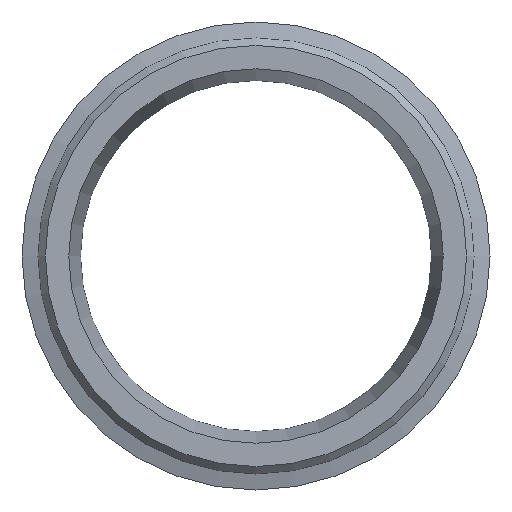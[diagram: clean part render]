
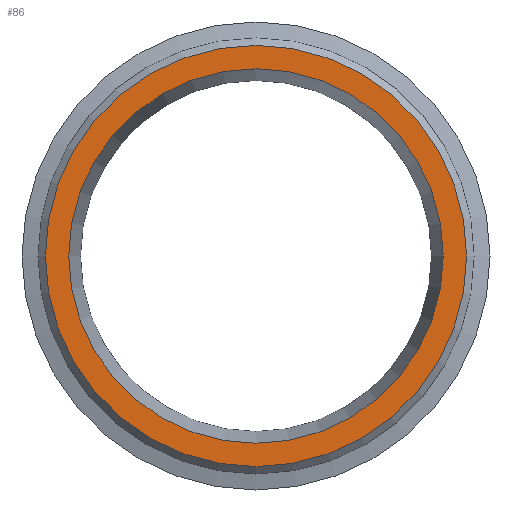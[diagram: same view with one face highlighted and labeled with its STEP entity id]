
A CAD part, left-side view. The second image highlights one B-rep face of the part: STEP entity #86.
In plain terms, the highlighted planar face has unit normal (-1, 0, 0).
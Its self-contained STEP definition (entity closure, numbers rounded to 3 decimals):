
#86=ADVANCED_FACE('',(#121,#122),#123,.F.);
#121=FACE_BOUND('',#157,.T.);
#122=FACE_OUTER_BOUND('',#158,.T.);
#123=PLANE('',#159);
#157=EDGE_LOOP('',(#215));
#158=EDGE_LOOP('',(#216));
#159=AXIS2_PLACEMENT_3D('',#217,#218,#219);
#215=ORIENTED_EDGE('',*,*,#231,.F.);
#216=ORIENTED_EDGE('',*,*,#220,.T.);
#217=CARTESIAN_POINT('',(0.0,18.0,0.0));
#218=DIRECTION('',(1.0,0.0,0.0));
#219=DIRECTION('',(0.0,0.0,-1.0));
#220=EDGE_CURVE('',#232,#232,#233,.T.);
#231=EDGE_CURVE('',#254,#254,#255,.T.);
#232=VERTEX_POINT('',#256);
#233=CIRCLE('',#257,18.0);
#254=VERTEX_POINT('',#278);
#255=CIRCLE('',#279,16.005);
#256=CARTESIAN_POINT('',(0.0,0.0,18.0));
#257=AXIS2_PLACEMENT_3D('',#280,#281,#282);
#278=CARTESIAN_POINT('',(0.0,0.0,16.005));
#279=AXIS2_PLACEMENT_3D('',#313,#314,#315);
#280=CARTESIAN_POINT('',(0.0,0.0,0.0));
#281=DIRECTION('',(-1.0,0.0,0.0));
#282=DIRECTION('',(0.0,0.0,1.0));
#313=CARTESIAN_POINT('',(0.0,0.0,0.0));
#314=DIRECTION('',(-1.0,0.0,0.0));
#315=DIRECTION('',(0.0,0.0,1.0));
